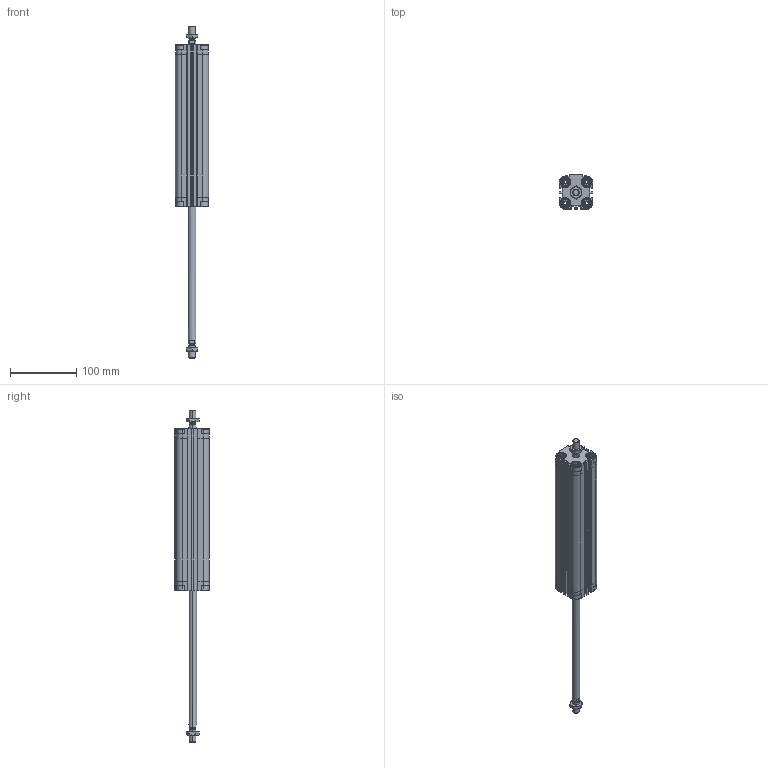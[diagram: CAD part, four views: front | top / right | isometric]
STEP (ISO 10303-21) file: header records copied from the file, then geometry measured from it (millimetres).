
FILE_DESCRIPTION (( 'STEP AP203' ), '1' );
FILE_NAME ('CDVU32-200M-P.STEP', '2020-07-21T15:16:08', ( '' ), ( '' ), 'SwSTEP 2.0', 'SolidWorks 2019', '' );
FILE_SCHEMA (( 'CONFIG_CONTROL_DESIGN' ));
Length unit declared in the file: millimetre
Products named in the file (1): CDVU32-200M-P
Bounding box: 50 x 52 x 500.5 mm (x, y, z)
Volume: 392150.1 mm3; surface area: 142071.9 mm2
Topology: 4 solids, 4 shells, 758 faces, 2004 edges, 1290 vertices
Faces by surface type: plane 438, cylinder 240, cone 80
Entity records: 24115 total; most frequent: CARTESIAN_POINT 5193, ORIENTED_EDGE 4000, DIRECTION 3862, EDGE_CURVE 2000, AXIS2_PLACEMENT_3D 1319, VERTEX_POINT 1290, VECTOR 1224, LINE 1224
